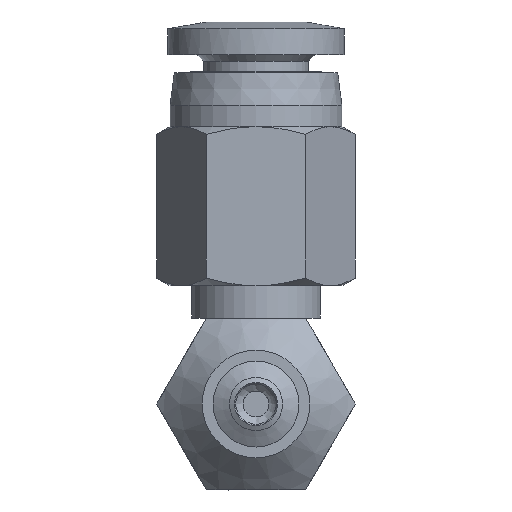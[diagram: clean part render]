
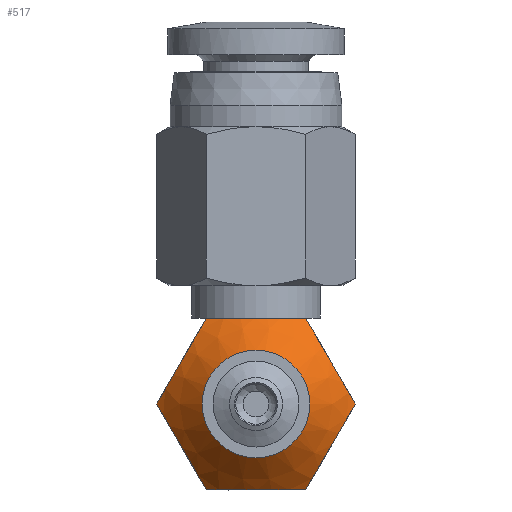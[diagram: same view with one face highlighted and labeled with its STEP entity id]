
A CAD part, front view. The second image highlights one B-rep face of the part: STEP entity #517.
In plain terms, the highlighted conical face has half-angle 45 degrees and reference radius 2.5 mm.
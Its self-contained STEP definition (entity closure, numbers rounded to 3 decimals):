
#517=ADVANCED_FACE('',(#760,#761),#762,.T.);
#760=FACE_BOUND('',#1142,.T.);
#761=FACE_OUTER_BOUND('',#1143,.T.);
#762=CONICAL_SURFACE('',#1144,2.5,0.785);
#1142=EDGE_LOOP('',(#2025));
#1143=EDGE_LOOP('',(#2026,#2027,#2028,#2029,#2030,#2031));
#1144=AXIS2_PLACEMENT_3D('',#2032,#2033,#2034);
#2025=ORIENTED_EDGE('',*,*,#2717,.F.);
#2026=ORIENTED_EDGE('',*,*,#2690,.F.);
#2027=ORIENTED_EDGE('',*,*,#2676,.F.);
#2028=ORIENTED_EDGE('',*,*,#2682,.F.);
#2029=ORIENTED_EDGE('',*,*,#2686,.F.);
#2030=ORIENTED_EDGE('',*,*,#2718,.F.);
#2031=ORIENTED_EDGE('',*,*,#2666,.F.);
#2032=CARTESIAN_POINT('',(0.0,0.,0.0));
#2033=DIRECTION('',(-0.0,1.0,-0.0));
#2034=DIRECTION('',(0.0,0.0,1.0));
#2666=EDGE_CURVE('',#2982,#2983,#2984,.T.);
#2676=EDGE_CURVE('',#3000,#3001,#3002,.T.);
#2682=EDGE_CURVE('',#3010,#3000,#3011,.T.);
#2686=EDGE_CURVE('',#3017,#3010,#3018,.T.);
#2690=EDGE_CURVE('',#3001,#2982,#3024,.T.);
#2717=EDGE_CURVE('',#3074,#3074,#3075,.T.);
#2718=EDGE_CURVE('',#2983,#3017,#3076,.T.);
#2982=VERTEX_POINT('',#3674);
#2983=VERTEX_POINT('',#3675);
#2984=B_SPLINE_CURVE_WITH_KNOTS('',2,(#3676,#3677,#3678,#3679,#3680),.UNSPECIFIED.,.F.,.F.,(3,2,3),(0.0,0.5,1.0),.UNSPECIFIED.);
#3000=VERTEX_POINT('',#3706);
#3001=VERTEX_POINT('',#3707);
#3002=B_SPLINE_CURVE_WITH_KNOTS('',2,(#3708,#3709,#3710,#3711,#3712),.UNSPECIFIED.,.F.,.F.,(3,2,3),(0.0,0.5,1.0),.UNSPECIFIED.);
#3010=VERTEX_POINT('',#3726);
#3011=B_SPLINE_CURVE_WITH_KNOTS('',2,(#3727,#3728,#3729,#3730,#3731),.UNSPECIFIED.,.F.,.F.,(3,2,3),(0.0,0.5,1.0),.UNSPECIFIED.);
#3017=VERTEX_POINT('',#3740);
#3018=B_SPLINE_CURVE_WITH_KNOTS('',2,(#3741,#3742,#3743,#3744,#3745),.UNSPECIFIED.,.F.,.F.,(3,2,3),(0.0,0.5,1.0),.UNSPECIFIED.);
#3024=B_SPLINE_CURVE_WITH_KNOTS('',2,(#3756,#3757,#3758,#3759,#3760),.UNSPECIFIED.,.F.,.F.,(3,2,3),(0.0,0.5,1.0),.UNSPECIFIED.);
#3074=VERTEX_POINT('',#3872);
#3075=CIRCLE('',#3873,2.5);
#3076=B_SPLINE_CURVE_WITH_KNOTS('',2,(#3874,#3875,#3876,#3877,#3878),.UNSPECIFIED.,.F.,.F.,(3,2,3),(0.0,0.5,1.0),.UNSPECIFIED.);
#3674=CARTESIAN_POINT('',(2.309,2.119,-4.0));
#3675=CARTESIAN_POINT('',(-2.309,2.119,-4.0));
#3676=CARTESIAN_POINT('',(2.309,2.119,-4.0));
#3677=CARTESIAN_POINT('',(1.072,1.5,-4.0));
#3678=CARTESIAN_POINT('',(0.001,1.5,-4.0));
#3679=CARTESIAN_POINT('',(-1.071,1.5,-4.0));
#3680=CARTESIAN_POINT('',(-2.309,2.119,-4.0));
#3706=CARTESIAN_POINT('',(2.309,2.119,4.0));
#3707=CARTESIAN_POINT('',(4.619,2.119,0.));
#3708=CARTESIAN_POINT('',(2.309,2.119,4.0));
#3709=CARTESIAN_POINT('',(2.926,1.502,2.932));
#3710=CARTESIAN_POINT('',(3.46,1.5,2.007));
#3711=CARTESIAN_POINT('',(3.998,1.498,1.075));
#3712=CARTESIAN_POINT('',(4.619,2.119,0.));
#3726=CARTESIAN_POINT('',(-2.309,2.119,4.0));
#3727=CARTESIAN_POINT('',(-2.309,2.119,4.0));
#3728=CARTESIAN_POINT('',(-1.072,1.5,4.0));
#3729=CARTESIAN_POINT('',(-0.001,1.5,4.0));
#3730=CARTESIAN_POINT('',(1.071,1.5,4.0));
#3731=CARTESIAN_POINT('',(2.309,2.119,4.0));
#3740=CARTESIAN_POINT('',(-4.619,2.119,0.));
#3741=CARTESIAN_POINT('',(-4.619,2.119,0.));
#3742=CARTESIAN_POINT('',(-4.002,1.502,1.068));
#3743=CARTESIAN_POINT('',(-3.468,1.5,1.993));
#3744=CARTESIAN_POINT('',(-2.93,1.498,2.925));
#3745=CARTESIAN_POINT('',(-2.309,2.119,4.));
#3756=CARTESIAN_POINT('',(4.619,2.119,0.));
#3757=CARTESIAN_POINT('',(4.002,1.502,-1.068));
#3758=CARTESIAN_POINT('',(3.468,1.5,-1.993));
#3759=CARTESIAN_POINT('',(2.93,1.498,-2.925));
#3760=CARTESIAN_POINT('',(2.309,2.119,-4.));
#3872=CARTESIAN_POINT('',(0.0,0.,-2.5));
#3873=AXIS2_PLACEMENT_3D('',#4562,#4563,#4564);
#3874=CARTESIAN_POINT('',(-2.309,2.119,-4.0));
#3875=CARTESIAN_POINT('',(-2.926,1.502,-2.932));
#3876=CARTESIAN_POINT('',(-3.46,1.5,-2.007));
#3877=CARTESIAN_POINT('',(-3.998,1.498,-1.075));
#3878=CARTESIAN_POINT('',(-4.619,2.119,0.));
#4562=CARTESIAN_POINT('',(0.0,0.,0.0));
#4563=DIRECTION('',(0.0,-1.0,0.0));
#4564=DIRECTION('',(0.0,0.0,-1.0));
